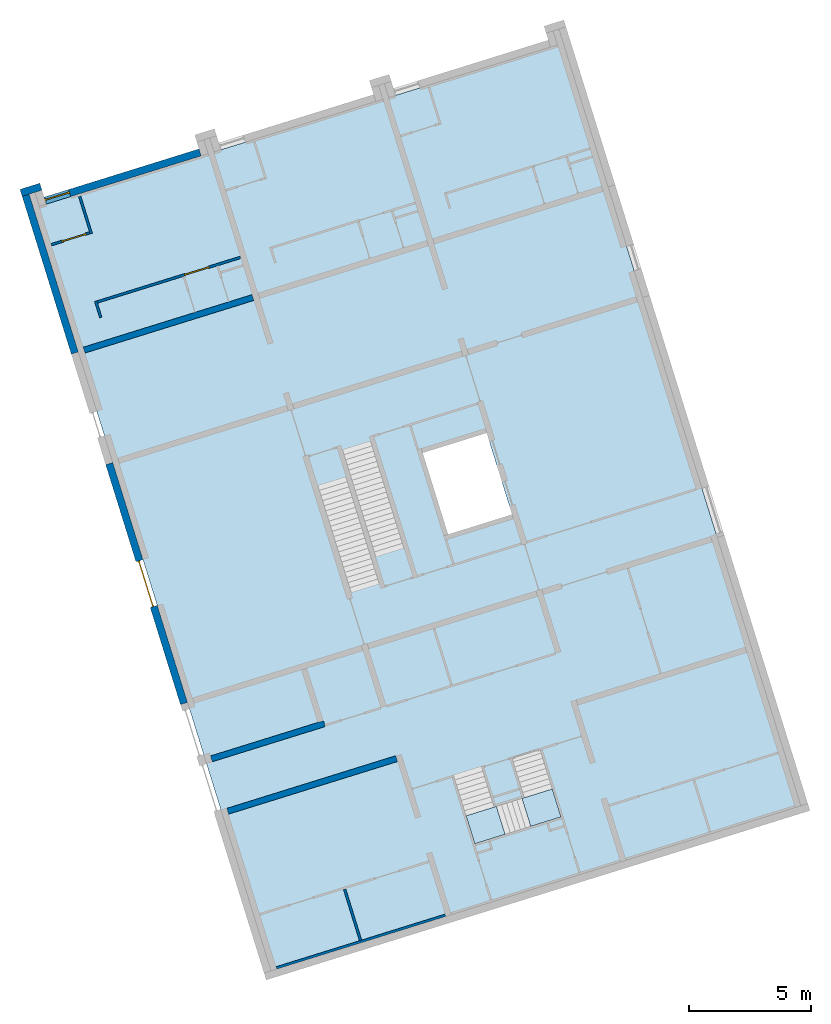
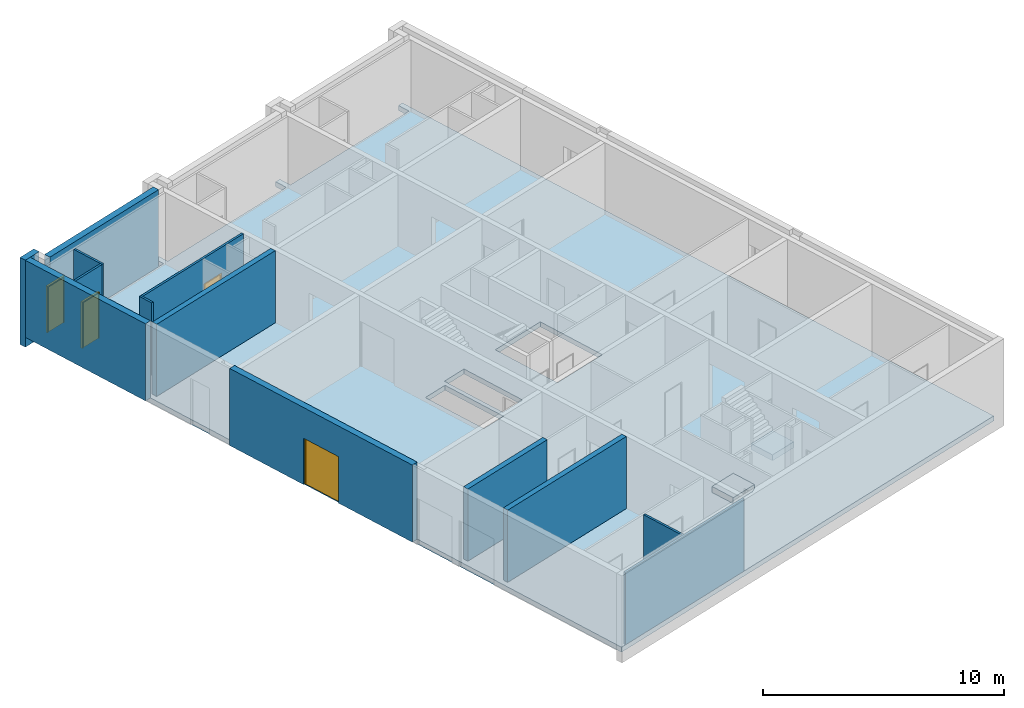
# One storey, part 1 of 10: 13 walls, 4 doors, 3 slabs, 9 openings, 1 element without a shape of its own.
"""IFC4 building model written with IfcOpenShell, lengths in metres."""

from ifc_helpers import new_model, entity, si_unit, converted_unit, direction, frame, origin, place, context, subcontext, project, spatial, indexed_curve, outline, extrude, polygons, source, transform, mapped, material, constituent, constituent_set, type_object, type_shapes, element, fill, aggregate, save


model = new_model("IFC4")

# Units and contexts
model_context = context("Model", 3, precision=1e-05, world=origin(), true_north=direction((6.12323399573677e-17, 1.0)))
body_context = subcontext(model_context, "Body", "Model", "MODEL_VIEW")
ifc_project = project(units=[si_unit("LENGTHUNIT", "METRE"), si_unit("AREAUNIT", "SQUARE_METRE"), converted_unit("PLANEANGLEUNIT", "DEGREE", entity("IfcPlaneAngleMeasure", 0.0174532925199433), si_unit("PLANEANGLEUNIT", "RADIAN"), dimensions=[0, 0, 0, 0, 0, 0, 0]), si_unit("VOLUMEUNIT", "CUBIC_METRE")], contexts=[model_context])

# Site, building, storey
site_placement = place(None, frame((13.1347999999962, 11.9886000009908, 0.0), z_axis=(0.0, 0.0, 1.0), x_axis=(0.954770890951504, 0.297342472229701, 0.0)))
site = spatial("IfcSite", under=ifc_project, at=site_placement, Name="Schiehaven", CompositionType="ELEMENT")
building_placement = place(site_placement, origin())
building = spatial("IfcBuilding", under=site, at=building_placement, Name="VORM huis", CompositionType="ELEMENT")
storey_placement = place(building_placement, origin())
storey = spatial("IfcBuildingStorey", under=building, at=storey_placement, Name="00 begane grond", CompositionType="ELEMENT", Elevation=0.0)

# Slab, openings
ifc_material_1 = material(Name="beton_gewapend_ihw", Category="Miscellaneous")
slab_type_1 = type_object("IfcSlabType", Name="Floor:28_FL_skelet_vloer 250mm", PredefinedType="FLOOR", material=ifc_material_1)
slab_1_placement = place(storey_placement, origin())
slab_1 = element("IfcSlab", 1, at=slab_1_placement, inside=storey, type_object=slab_type_1, material=ifc_material_1, Name="Constructieve vloer", ObjectType="Vloer", PredefinedType="FLOOR", context=body_context, shape_type="SweptSolid", body=[
    extrude(outline(indexed_curve([(-11.3749999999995, -28.9562499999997), (11.3749999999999, -28.9562499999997), (11.3749999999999, 4.39375000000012), (11.125, 4.39375000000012), (11.125, 3.79375000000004), (3.87500000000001, 3.79375000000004), (3.87500000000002, 4.39374999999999), (3.62499999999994, 4.39374999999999), (3.62499999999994, 3.79374999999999), (-3.62500000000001, 3.79374999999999), (-3.62500000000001, 4.39374999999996), (-3.87500000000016, 4.39374999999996), (-3.87500000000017, 3.79374999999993), (-11.1250000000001, 3.79374999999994), (-11.1250000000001, 4.39374999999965), (-11.3749999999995, 4.39374999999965), (-11.3749999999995, -28.9562499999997)], self_intersect=False), holes=[indexed_curve([(3.62500000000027, -14.0312500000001), (0.875000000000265, -14.0312500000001), (0.875000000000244, -10.5312500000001), (3.62500000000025, -10.5312500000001), (3.62500000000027, -14.0312500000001)], self_intersect=False), indexed_curve([(-1.02499999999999, -13.8212500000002), (-2.22500000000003, -13.8212500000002), (-2.22500000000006, -10.5212500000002), (-1.02500000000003, -10.5212500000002), (-1.02499999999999, -13.8212500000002)], self_intersect=False), indexed_curve([(-3.62500000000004, -10.7412500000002), (-2.42499999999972, -10.7412500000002), (-2.42499999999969, -14.0412500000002), (-3.625, -14.0412500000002), (-3.62500000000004, -10.7412500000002)], self_intersect=False)]), frame((68.7500000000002, 29.3312499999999, -0.25)), (0.0, 0.0, 1.0), 0.25),
])
opening_1_placement = place(slab_1_placement, origin())
element("IfcOpeningElement", 2, at=opening_1_placement, cuts=slab_1, Name="Constructieve vloer", PredefinedType="OPENING", context=body_context, shape_type="SweptSolid", body=[
    extrude(outline(indexed_curve([(-1.75, -1.375), (1.75, -1.375), (1.75, 1.37500000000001), (-1.75, 1.37500000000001), (-1.75, -1.375)], self_intersect=False)), frame((71.0, 17.0499999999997, -0.25), z_axis=(0.0, 0.0, 1.0), x_axis=(0.0, 1.0, 0.0)), (0.0, 0.0, 1.0), 0.25),
])
opening_2_placement = place(slab_1_placement, origin())
element("IfcOpeningElement", 3, at=opening_2_placement, cuts=slab_1, Name="Constructieve vloer", PredefinedType="OPENING", context=body_context, shape_type="SweptSolid", body=[
    extrude(outline(indexed_curve([(-1.65, -0.60000000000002), (1.65, -0.60000000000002), (1.65, 0.60000000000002), (-1.65, 0.60000000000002), (-1.65, -0.60000000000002)], self_intersect=False)), frame((67.1250000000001, 17.1599999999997, -0.25), z_axis=(0.0, 0.0, 1.0), x_axis=(0.0, 1.0, 0.0)), (0.0, 0.0, 1.0), 0.25),
])

# Stair, slabs
stair_type = type_object("IfcStairType", Name="Trap", PredefinedType="DOUBLE_RETURN_STAIR")
stair_placement = place(storey_placement, origin())
stair = element("IfcStair", 4, at=stair_placement, inside=storey, type_object=stair_type, Name="Hoofdtrap", ObjectType="Precast Stair:NLRS_24_STR_reguliere trap-woonfunctie-breedte 1200mm_gen", PredefinedType="DOUBLE_RETURN_STAIR")
ifc_material_2 = material(Name="beton_gewapend_prefab-element", Category="Miscellaneous")
slab_type_2 = type_object("IfcSlabType", Name="Monolithic Landing:NLRS_24_STRL_bordes-beton prefab-300mm_gen_rsf", PredefinedType="LANDING")
slab_2_placement = place(stair_placement, frame((66.9000000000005, 2.86500000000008, 0.0)))
slab_2 = element("IfcSlab", 5, at=slab_2_placement, type_object=slab_type_2, material=ifc_material_2, Name="Hoofdtrap Landing 1", ObjectType="Monolithic Landing:NLRS_24_STRL_bordes-beton prefab-300mm_gen_rsf", PredefinedType="LANDING", context=body_context, shape_type="Tessellation", body=[
    polygons([(1.20000000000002, 1.2, 1.48571428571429), (0.0, 1.2, 1.48571428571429), (0.0, 4.88498130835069e-15, 1.48571428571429), (1.17715474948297, 8.88178419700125e-16, 1.48571428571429), (1.30000000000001, 0.0, 1.48571428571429), (1.30000000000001, 1.2, 1.48571428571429), (0.0, 4.88498130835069e-15, 1.18571428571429), (1.17715474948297, 8.88178419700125e-16, 1.18571428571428), (1.30000000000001, 0.0, 1.28941482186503), (1.30000000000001, 1.2, 1.28941482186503), (1.20000000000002, 1.2, 1.20499923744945), (1.17715474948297, 1.2, 1.18571428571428), (0.0, 1.2, 1.18571428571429)], [[[1, 2, 3, 4, 5, 6]], [[3, 7, 8, 9, 5, 4]], [[1, 6, 10, 11]], [[12, 8, 7, 13]], [[8, 12, 11, 10, 9]], [[2, 1, 11, 12, 13]], [[3, 2, 13, 7]], [[6, 5, 9, 10]]], closed=True),
])
slab_3_placement = place(stair_placement, frame((69.3000000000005, 2.86500000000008, 0.0)))
slab_3 = element("IfcSlab", 6, at=slab_3_placement, type_object=slab_type_2, material=ifc_material_2, Name="Hoofdtrap Landing 2", ObjectType="Monolithic Landing:NLRS_24_STRL_bordes-beton prefab-300mm_gen_rsf", PredefinedType="LANDING", context=body_context, shape_type="Tessellation", body=[
    polygons([(0.0, 1.20000000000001, 2.41428571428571), (0.0, 4.88498130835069e-15, 2.41428571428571), (1.30000000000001, 0.0, 2.41428571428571), (1.30000000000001, 1.07715474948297, 2.41428571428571), (1.30000000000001, 1.2, 2.41428571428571), (0.0999999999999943, 1.2, 2.41428571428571), (1.30000000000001, 0.0, 2.11428571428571), (1.30000000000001, 1.07715474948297, 2.11428571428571), (1.30000000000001, 1.2, 2.21798625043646), (0.0999999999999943, 1.2, 2.21798625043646), (0.0999999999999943, 1.2, 2.11428571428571), (0.0, 1.20000000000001, 2.11428571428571), (0.0999999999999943, 1.07715474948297, 2.11428571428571), (0.0, 4.88498130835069e-15, 2.11428571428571)], [[[1, 2, 3, 4, 5, 6]], [[3, 7, 8, 9, 5, 4]], [[1, 6, 10, 11, 12]], [[11, 13, 8, 7, 14, 12]], [[8, 13, 10, 9]], [[2, 1, 12, 14]], [[3, 2, 14, 7]], [[6, 5, 9, 10]], [[13, 11, 10]]], closed=True),
])
aggregate(stair, [slab_2, slab_3])

# Walls
ifc_material_3 = material(Name="ntb_ntb_ntb", Category="Miscellaneous")
wall_type_1 = type_object("IfcWallType", Name="Basic Wall:21_WA_gevel_binnenspouwwand 100mm_gen", PredefinedType="STANDARD")
wall_1_placement = place(storey_placement, frame((64.8750000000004, 0.424999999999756, 0.0), z_axis=(0.0, 0.0, 1.0), x_axis=(-1.0, 0.0, 0.0)))
element("IfcWall", 7, at=wall_1_placement, inside=storey, type_object=wall_type_1, material=ifc_material_3, Name="Binnenspouwblad", ObjectType="Wand", PredefinedType="NOTDEFINED", context=body_context, shape_type="SweptSolid", body=[
    extrude(outline(indexed_curve([(7.24999999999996, 0.05), (8.31549082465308e-16, 0.05), (-8.31549082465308e-16, -0.05), (7.24999999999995, -0.05), (7.24999999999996, 0.05)], self_intersect=False)), origin(), (0.0, 0.0, 1.0), 3.65),
])
wall_type_2 = type_object("IfcWallType", Name="Basic Wall: 300mm_gen", PredefinedType="STANDARD")
wall_2_placement = place(storey_placement, frame((57.2249999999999, 33.7249999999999, 0.0), z_axis=(0.0, 0.0, 1.0), x_axis=(0.0, -1.0, 0.0)))
element("IfcWall", 8, at=wall_2_placement, inside=storey, type_object=wall_type_2, material=ifc_material_3, Name="Gevelwand", ObjectType="Wand", PredefinedType="NOTDEFINED", context=body_context, shape_type="SweptSolid", body=[
    extrude(outline(indexed_curve([(6.77500000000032, 0.150000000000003), (-6.41119888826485e-15, 0.150000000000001), (-2.25173814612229e-15, -0.150000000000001), (6.77500000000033, -0.149999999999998), (6.77500000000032, 0.150000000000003)], self_intersect=False)), origin(), (0.0, 0.0, 1.0), 3.9),
])

# Wall, openings, door
wall_3_placement = place(storey_placement, frame((57.2250000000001, 22.1999999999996, 0.0), z_axis=(0.0, 0.0, 1.0), x_axis=(0.0, -1.0, 0.0)))
wall_3 = element("IfcWall", 9, at=wall_3_placement, inside=storey, type_object=wall_type_2, material=ifc_material_3, Name="Gevelwand", ObjectType="Wand", PredefinedType="NOTDEFINED", context=body_context, shape_type="Tessellation", body=[
    polygons([(6.13249999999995, -0.15, 2.34999999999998), (6.13249999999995, -0.15, 0.0), (10.2999999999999, -0.150000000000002, 0.0), (10.2999999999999, -0.150000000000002, 3.9), (0.0, -0.149999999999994, 3.9), (0.0, -0.149999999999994, 0.0), (4.16749999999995, -0.149999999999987, 0.0), (4.16749999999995, -0.149999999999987, 2.34999999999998), (10.3, 0.149999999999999, 0.0), (6.13249999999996, 0.150000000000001, 0.0), (6.13249999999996, 0.150000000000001, 2.34999999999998), (4.16749999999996, 0.150000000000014, 2.34999999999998), (4.16749999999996, 0.150000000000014, 0.0), (4.33146851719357e-15, 0.150000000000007, 0.0), (4.33146851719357e-15, 0.150000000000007, 3.9), (10.3, 0.149999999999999, 3.9)], [[[1, 2, 3, 4, 5, 6, 7, 8]], [[9, 10, 11, 12, 13, 14, 15, 16]], [[7, 6, 14, 13]], [[4, 3, 9, 16]], [[5, 4, 16, 15]], [[6, 5, 15, 14]], [[12, 11, 1, 8]], [[11, 10, 2, 1]], [[13, 12, 8, 7]], [[3, 2, 10, 9]]], closed=True),
])
opening_3_placement = place(wall_3_placement, frame((6.13249999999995, 0.150000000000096, 0.0)))
opening_3 = element("IfcOpeningElement", 10, at=opening_3_placement, cuts=wall_3, Name="Vluchtdeur", PredefinedType="OPENING", context=body_context, shape_type="SweptSolid", body=[
    extrude(outline(indexed_curve([(2.34999999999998, 1.965), (0.0, 1.965), (0.0, 0.0), (2.34999999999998, 0.0), (2.34999999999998, 1.965)], self_intersect=False)), frame((0.0, 0.0, 0.0), z_axis=(0.0, -1.0, 0.0), x_axis=(0.0, 0.0, 1.0)), (0.0, 0.0, 1.0), 0.3),
])
opening_4_placement = place(wall_3_placement, frame((22.1999999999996, -57.2250000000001, 0.0), z_axis=(0.0, 0.0, 1.0), x_axis=(0.0, 1.0, 0.0)))
element("IfcOpeningElement", 11, at=opening_4_placement, cuts=wall_3, Name="Vluchtdeur", PredefinedType="OPENING", context=body_context, shape_type="SweptSolid", body=[
    extrude(outline(indexed_curve([(-0.982500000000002, -1.17499999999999), (0.982500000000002, -1.17499999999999), (0.9825, 1.17499999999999), (-0.982500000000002, 1.17499999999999), (-0.982500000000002, -1.17499999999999)], self_intersect=False)), frame((55.8510000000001, 17.0499999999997, 1.17499999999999), z_axis=(1.0, 0.0, 0.0), x_axis=(0.0, -1.0, 0.0)), (0.0, 0.0, 1.0), 3.048),
])
ifc_material_4 = material(Name="PD_a_buitenwandopeningen", Category="Miscellaneous")
ifc_constituent_1 = constituent(ifc_material_4, Name="PD_a_buitenwandopeningen", Category="Miscellaneous")
ifc_material_5 = material(Name="metaal_aluminium_ntb", Category="Miscellaneous")
ifc_constituent_2 = constituent(ifc_material_5, Name="metaal_aluminium_ntb", Category="Miscellaneous")
ifc_constituent_set_1 = constituent_set(constituents=[ifc_constituent_1, ifc_constituent_2])
ifc_constituent_3 = constituent(ifc_material_4, Name="PD_a_buitenwandopeningen", Category="Miscellaneous")
ifc_constituent_4 = constituent(ifc_material_5, Name="Panel", Category="Miscellaneous")
ifc_constituent_set_2 = constituent_set(constituents=[ifc_constituent_3, ifc_constituent_4])
door_type_1 = type_object("IfcDoorType", Name="31_DO_buitendeur dubbel:buitendeur zelfsluitend 30min", OperationType="NOTDEFINED", PredefinedType="DOOR", material=ifc_constituent_set_2)
shared_shape_1 = source(origin(), body_context, "Body", "SweptSolid", [
    extrude(outline(indexed_curve([(-1.16249999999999, -0.982500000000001), (1.18749999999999, -0.982500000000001), (1.18749999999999, 0.982500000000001), (-1.16249999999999, 0.982500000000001), (-1.16249999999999, 0.932499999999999), (1.13749999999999, 0.9325), (1.13749999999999, -0.932499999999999), (-1.16249999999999, -0.932499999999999), (-1.16249999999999, -0.982500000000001)], self_intersect=False)), frame((0.982500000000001, 0.130000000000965, 1.16249999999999), z_axis=(0.0, 1.0, 0.0), x_axis=(0.0, 0.0, 1.0)), (0.0, 0.0, 1.0), 0.1),
    extrude(outline(indexed_curve([(-0.025, -0.466249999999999), (0.025, -0.466249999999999), (0.025, 0.466249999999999), (-0.025, 0.466249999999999), (-0.025, -0.466249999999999)], self_intersect=False)), frame((1.44875, 0.180000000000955, 0.0), z_axis=(0.0, 0.0, 1.0), x_axis=(0.0, 1.0, 0.0)), (0.0, 0.0, 1.0), 2.29999999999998),
    extrude(outline(indexed_curve([(-0.0249999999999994, -0.46625), (0.0250000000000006, -0.46625), (0.0249999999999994, 0.46625), (-0.0250000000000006, 0.466249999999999), (-0.0249999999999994, -0.46625)], self_intersect=False)), frame((0.516250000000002, 0.180000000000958, 0.0), z_axis=(0.0, 0.0, 1.0), x_axis=(0.0, 1.0, 0.0)), (0.0, 0.0, 1.0), 2.29999999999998),
])
type_shapes(door_type_1, [shared_shape_1])
door_1_placement = place(opening_3_placement, frame((0.0, 0.0, 0.0), z_axis=(0.0, 0.0, 1.0), x_axis=(-1.0, 0.0, 0.0)))
door_1 = element("IfcDoor", 12, at=door_1_placement, inside=storey, type_object=door_type_1, material=ifc_constituent_set_1, Name="Vluchtdeur", ObjectType="Deur", OperationType="NOTDEFINED", OverallHeight=2.34999999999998, OverallWidth=1.965, PredefinedType="DOOR", context=body_context, shape_type="MappedRepresentation", body=[
    mapped(shared_shape_1, transform((0.0, 0.0, 0.0), scale=1.0)),
])
fill(opening_3, door_1)

# Wall
wall_4_placement = place(storey_placement, frame((57.9250000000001, 33.8749999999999, -0.5), z_axis=(0.0, 0.0, 1.0), x_axis=(-1.0, 0.0, 0.0)))
element("IfcWall", 13, at=wall_4_placement, inside=storey, type_object=wall_type_2, material=ifc_material_3, Name="Gevelwand", ObjectType="Wand", PredefinedType="NOTDEFINED", context=body_context, shape_type="SweptSolid", body=[
    extrude(outline(indexed_curve([(0.850000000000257, 0.150000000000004), (-6.58211410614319e-16, 0.150000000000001), (6.58211410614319e-16, -0.150000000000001), (0.850000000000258, -0.149999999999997), (0.850000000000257, 0.150000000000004)], self_intersect=False)), origin(), (0.0, 0.0, 1.0), 4.4),
])

# Wall, openings, door
wall_5_placement = place(storey_placement, frame((64.5750000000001, 33.2749999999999, -0.5), z_axis=(0.0, 0.0, 1.0), x_axis=(-1.0, 0.0, 0.0)))
wall_5 = element("IfcWall", 14, at=wall_5_placement, inside=storey, type_object=wall_type_2, material=ifc_material_3, Name="Gevelwand", ObjectType="Wand", PredefinedType="NOTDEFINED", context=body_context, shape_type="Tessellation", body=[
    polygons([(-3.38828290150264e-15, -0.149999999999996, 0.0), (6.64999999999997, -0.149999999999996, 0.0), (6.64999999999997, -0.149999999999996, 0.5), (5.59999999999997, -0.149999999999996, 0.5), (5.59999999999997, -0.149999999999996, 2.84999999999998), (6.64999999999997, -0.149999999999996, 2.84999999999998), (6.64999999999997, -0.149999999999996, 4.4), (-3.38828290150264e-15, -0.149999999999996, 4.4), (6.64999999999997, 0.150000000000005, 0.0), (-4.36865596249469e-15, 0.150000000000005, 0.0), (-4.36865596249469e-15, 0.150000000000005, 4.4), (6.64999999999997, 0.150000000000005, 4.4), (6.64999999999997, 0.150000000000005, 2.84999999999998), (5.59999999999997, 0.150000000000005, 2.84999999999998), (5.59999999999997, 0.150000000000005, 0.5), (6.64999999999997, 0.150000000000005, 0.5)], [[[1, 2, 3, 4, 5, 6, 7, 8]], [[9, 10, 11, 12, 13, 14, 15, 16]], [[2, 1, 10, 9]], [[8, 7, 12, 11]], [[1, 8, 11, 10]], [[2, 9, 16, 3]], [[15, 4, 3, 16]], [[4, 15, 14, 5]], [[5, 14, 13, 6]], [[12, 7, 6, 13]]], closed=True),
])
opening_5_placement = place(wall_5_placement, frame((6.64999999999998, 0.149999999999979, 0.5)))
opening_5 = element("IfcOpeningElement", 15, at=opening_5_placement, cuts=wall_5, Name="Woningtoegangsdeur", PredefinedType="OPENING", context=body_context, shape_type="SweptSolid", body=[
    extrude(outline(indexed_curve([(2.34999999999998, -5.52923834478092e-32), (2.34999999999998, 1.05), (0.0, 1.05), (0.0, -5.52923834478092e-32), (2.34999999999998, -5.52923834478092e-32)], self_intersect=False)), frame((0.0, 0.0, 0.0), z_axis=(0.0, -1.0, 0.0), x_axis=(0.0, 0.0, 1.0)), (0.0, 0.0, 1.0), 0.3),
])
opening_6_placement = place(wall_5_placement, frame((64.5750000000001, 33.2749999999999, 0.5), z_axis=(0.0, 0.0, 1.0), x_axis=(-1.0, 0.0, 0.0)))
element("IfcOpeningElement", 16, at=opening_6_placement, cuts=wall_5, Name="Woningtoegangsdeur", PredefinedType="OPENING", context=body_context, shape_type="SweptSolid", body=[
    extrude(outline(indexed_curve([(-1.17499999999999, -0.525000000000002), (1.17499999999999, -0.525000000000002), (1.17499999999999, 0.525000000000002), (-1.17499999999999, 0.525000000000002), (-1.17499999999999, -0.525000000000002)], self_intersect=False)), frame((58.4500000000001, 34.6489999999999, 1.17499999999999), z_axis=(0.0, -1.0, 0.0), x_axis=(0.0, 0.0, -1.0)), (0.0, 0.0, 1.0), 3.048),
])
ifc_constituent_5 = constituent(ifc_material_4, Name="PD_a_buitenwandopeningen", Category="Miscellaneous")
ifc_constituent_6 = constituent(ifc_material_5, Name="metaal_aluminium_ntb", Category="Miscellaneous")
ifc_constituent_set_3 = constituent_set(constituents=[ifc_constituent_5, ifc_constituent_6])
ifc_constituent_7 = constituent(ifc_material_4, Name="PD_a_buitenwandopeningen", Category="Miscellaneous")
ifc_constituent_8 = constituent(ifc_material_5, Name="Panel", Category="Miscellaneous")
ifc_constituent_set_4 = constituent_set(constituents=[ifc_constituent_7, ifc_constituent_8])
door_type_2 = type_object("IfcDoorType", Name="31_DO_buitendeur enkel:woningtoegangsdeur", OperationType="REVOLVING", PredefinedType="DOOR", material=ifc_constituent_set_4)
shared_shape_2 = source(origin(), body_context, "Body", "SweptSolid", [
    extrude(outline(indexed_curve([(0.475, -1.16249999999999), (0.525000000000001, -1.16249999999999), (0.525000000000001, 1.18749999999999), (-0.525000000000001, 1.18749999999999), (-0.525000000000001, -1.16249999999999), (-0.475, -1.16249999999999), (-0.475, 1.13749999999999), (0.475, 1.13749999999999), (0.475, -1.16249999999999)], self_intersect=False)), frame((0.525000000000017, 0.230000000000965, 1.16249999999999), z_axis=(0.0, -1.0, 0.0), x_axis=(1.0, 0.0, 0.0)), (0.0, 0.0, 1.0), 0.1),
    extrude(outline(indexed_curve([(-0.475, -0.025), (0.475, -0.025), (0.475, 0.025), (-0.475, 0.025), (-0.475, -0.025)], self_intersect=False)), frame((0.525000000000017, 0.180000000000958, 0.0)), (0.0, 0.0, 1.0), 2.29999999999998),
])
type_shapes(door_type_2, [shared_shape_2])
door_2_placement = place(opening_5_placement, frame((0.0, 0.0, 0.0), z_axis=(0.0, 0.0, 1.0), x_axis=(-1.0, 0.0, 0.0)))
door_2 = element("IfcDoor", 17, at=door_2_placement, inside=storey, type_object=door_type_2, material=ifc_constituent_set_3, Name="Woningtoegangsdeur", ObjectType="Deur", OperationType="REVOLVING", OverallHeight=2.34999999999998, OverallWidth=1.05, PredefinedType="DOOR", context=body_context, shape_type="MappedRepresentation", body=[
    mapped(shared_shape_2, transform((0.0, 0.0, 0.0), scale=1.0)),
])
fill(opening_5, door_2)

# Walls
wall_type_3 = type_object("IfcWallType", Name="Basic Wall:22_WA_afbouw_binnenwand 250mm_gen", PredefinedType="STANDARD")
wall_6_placement = place(storey_placement, frame((64.875, 26.9499999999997, 0.0), z_axis=(0.0, 0.0, 1.0), x_axis=(-1.0, 0.0, 0.0)))
element("IfcWall", 18, at=wall_6_placement, inside=storey, type_object=wall_type_3, material=ifc_material_3, Name="Binnenwand", ObjectType="Wand", PredefinedType="NOTDEFINED", context=body_context, shape_type="SweptSolid", body=[
    extrude(outline(indexed_curve([(7.24999999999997, 0.125000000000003), (2.22995564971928e-15, 0.125000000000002), (-2.22995564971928e-15, -0.125000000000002), (7.24999999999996, -0.125000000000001), (7.24999999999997, 0.125000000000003)], self_intersect=False)), origin(), (0.0, 0.0, 1.0), 3.65),
])
wall_7_placement = place(storey_placement, frame((64.8750000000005, 7.15000000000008, 0.0), z_axis=(0.0, 0.0, 1.0), x_axis=(-1.0, 0.0, 0.0)))
element("IfcWall", 19, at=wall_7_placement, inside=storey, type_object=wall_type_3, material=ifc_material_3, Name="Binnenwand", ObjectType="Wand", PredefinedType="NOTDEFINED", context=body_context, shape_type="SweptSolid", body=[
    extrude(outline(indexed_curve([(7.24999999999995, 0.125), (2.64740926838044e-16, 0.125), (-2.64740926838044e-16, -0.125), (7.24999999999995, -0.125), (7.24999999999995, 0.125)], self_intersect=False)), origin(), (0.0, 0.0, 1.0), 3.65),
])
wall_8_placement = place(storey_placement, frame((62.4750000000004, 9.40000000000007, 0.0), z_axis=(0.0, 0.0, 1.0), x_axis=(-1.0, 0.0, 0.0)))
element("IfcWall", 20, at=wall_8_placement, inside=storey, type_object=wall_type_3, material=ifc_material_3, Name="Binnenwand", ObjectType="Wand", PredefinedType="NOTDEFINED", context=body_context, shape_type="SweptSolid", body=[
    extrude(outline(indexed_curve([(4.84999999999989, 0.124999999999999), (2.64740926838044e-16, 0.125), (-2.64740926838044e-16, -0.125), (4.84999999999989, -0.125), (4.84999999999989, 0.124999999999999)], self_intersect=False)), origin(), (0.0, 0.0, 1.0), 3.65),
])

# Wall, openings, door
wall_type_4 = type_object("IfcWallType", Name="Basic Wall:22_WA_afbouw_binnenwand 100mm_gen", PredefinedType="STANDARD")
wall_9_placement = place(storey_placement, frame((58.7250000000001, 28.6749999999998, 0.0)))
wall_9 = element("IfcWall", 21, at=wall_9_placement, inside=storey, type_object=wall_type_4, material=ifc_material_3, Name="Binnenwand", ObjectType="Wand", PredefinedType="NOTDEFINED", context=body_context, shape_type="Tessellation", body=[
    polygons([(3.34607414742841e-15, -0.0500000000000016, 0.0), (3.65000000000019, -0.0499999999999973, 0.0), (3.75000000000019, -0.0500000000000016, 0.0), (3.75000000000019, -0.0500000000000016, 2.34999999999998), (4.80000000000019, -0.0500000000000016, 2.34999999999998), (4.80000000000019, -0.0500000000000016, 0.0), (5.10000000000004, -0.0499999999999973, 0.0), (5.20000000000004, -0.0499999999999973, 0.0), (6.15000000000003, -0.0500000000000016, 0.0), (6.15000000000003, -0.0500000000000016, 3.65), (5.20000000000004, -0.0499999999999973, 3.65), (5.10000000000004, -0.0499999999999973, 3.65), (3.75000000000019, -0.0499999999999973, 3.65), (3.65000000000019, -0.0499999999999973, 3.65), (3.34607414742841e-15, -0.0500000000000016, 3.65), (3.75000000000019, 0.0500000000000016, 2.34999999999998), (3.75000000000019, 0.0500000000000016, 0.0), (3.35776348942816e-15, 0.0500000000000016, 0.0), (3.35776348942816e-15, 0.0500000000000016, 3.65), (6.15000000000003, 0.0500000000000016, 3.65), (6.15000000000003, 0.0500000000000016, 0.0), (4.80000000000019, 0.0500000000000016, 0.0), (4.80000000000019, 0.0500000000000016, 2.34999999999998)], [[[1, 2, 3, 4, 5, 6, 7, 8, 9, 10, 11, 12, 13, 14, 15]], [[16, 17, 18, 19, 20, 21, 22, 23]], [[18, 17, 3, 2, 1]], [[10, 9, 21, 20]], [[15, 14, 13, 12, 11, 10, 20, 19]], [[6, 5, 23, 22]], [[4, 3, 17, 16]], [[5, 4, 16, 23]], [[1, 15, 19, 18]], [[22, 21, 9, 8, 7, 6]]], closed=True),
])
opening_7_placement = place(wall_9_placement, frame((3.75000000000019, -0.0500000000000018, 0.0)))
opening_7 = element("IfcOpeningElement", 22, at=opening_7_placement, cuts=wall_9, Name="Binnendeur", PredefinedType="OPENING", context=body_context, shape_type="SweptSolid", body=[
    extrude(outline(indexed_curve([(2.34999999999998, 1.05), (0.0, 1.05), (0.0, 1.48335986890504e-32), (2.34999999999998, 1.48335986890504e-32), (2.34999999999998, 1.05)], self_intersect=False)), frame((0.0, 0.0, 0.0), z_axis=(0.0, 1.0, 0.0), x_axis=(0.0, 0.0, 1.0)), (0.0, 0.0, 1.0), 0.1),
])
opening_8_placement = place(wall_9_placement, frame((-58.7250000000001, -28.6749999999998, 0.0)))
element("IfcOpeningElement", 23, at=opening_8_placement, cuts=wall_9, Name="Binnendeur", PredefinedType="OPENING", context=body_context, shape_type="SweptSolid", body=[
    extrude(outline(indexed_curve([(-1.17499999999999, -0.525000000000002), (1.17499999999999, -0.525000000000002), (1.17499999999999, 0.525000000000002), (-1.17499999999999, 0.525000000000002), (-1.17499999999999, -0.525000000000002)], self_intersect=False)), frame((63.0, 27.1009999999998, 1.17499999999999), z_axis=(0.0, 1.0, 0.0), x_axis=(0.0, 0.0, -1.0)), (0.0, 0.0, 1.0), 3.048),
])
ifc_material_6 = material(Name="PD_a_binnenwandopeningen", Category="Miscellaneous")
ifc_constituent_9 = constituent(ifc_material_6, Name="PD_a_binnenwandopeningen", Category="Miscellaneous")
ifc_constituent_10 = constituent(ifc_material_5, Name="metaal_aluminium_ntb", Category="Miscellaneous")
ifc_constituent_set_5 = constituent_set(constituents=[ifc_constituent_9, ifc_constituent_10])
ifc_constituent_11 = constituent(ifc_material_6, Name="PD_a_binnenwandopeningen", Category="Miscellaneous")
ifc_constituent_12 = constituent(ifc_material_5, Name="Panel", Category="Miscellaneous")
ifc_constituent_set_6 = constituent_set(constituents=[ifc_constituent_11, ifc_constituent_12])
door_type_3 = type_object("IfcDoorType", Name="32_DO_binnendeur enkel:binnendeur", OperationType="REVOLVING", PredefinedType="DOOR", material=ifc_constituent_set_6)
shared_shape_3 = source(origin(), body_context, "Body", "SweptSolid", [
    extrude(outline(indexed_curve([(-1.16249999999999, -0.525000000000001), (1.18749999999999, -0.525), (1.18749999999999, 0.525), (-1.16249999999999, 0.525), (-1.16249999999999, 0.475), (1.13749999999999, 0.475), (1.13749999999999, -0.475), (-1.16249999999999, -0.475), (-1.16249999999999, -0.525000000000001)], self_intersect=False)), frame((0.525000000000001, 0.0, 1.16249999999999), z_axis=(0.0, 1.0, 0.0), x_axis=(0.0, 0.0, 1.0)), (0.0, 0.0, 1.0), 0.1),
    extrude(outline(indexed_curve([(-0.025, -0.475), (0.025, -0.475), (0.025, 0.475), (-0.025, 0.475), (-0.025, -0.475)], self_intersect=False)), frame((0.525000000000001, 0.0499999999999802, 0.0), z_axis=(0.0, 0.0, 1.0), x_axis=(0.0, 1.0, 0.0)), (0.0, 0.0, 1.0), 2.29999999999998),
])
type_shapes(door_type_3, [shared_shape_3])
door_3_placement = place(opening_7_placement, origin())
door_3 = element("IfcDoor", 24, at=door_3_placement, inside=storey, type_object=door_type_3, material=ifc_constituent_set_5, Name="Binnendeur", ObjectType="Deur", OperationType="REVOLVING", OverallHeight=2.34999999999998, OverallWidth=1.05, PredefinedType="DOOR", context=body_context, shape_type="MappedRepresentation", body=[
    mapped(shared_shape_3, transform((0.0, 0.0, 0.0), scale=1.0)),
])
fill(opening_7, door_3)

# Wall
wall_10_placement = place(storey_placement, frame((58.6750000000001, 28.0249999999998, 0.0), z_axis=(0.0, 0.0, 1.0), x_axis=(0.0, 1.0, 0.0)))
element("IfcWall", 25, at=wall_10_placement, inside=storey, type_object=wall_type_4, material=ifc_material_3, Name="Binnenwand", ObjectType="Wand", PredefinedType="NOTDEFINED", context=body_context, shape_type="SweptSolid", body=[
    extrude(outline(indexed_curve([(0.699999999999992, 0.0499999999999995), (-1.60750271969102e-16, 0.0499999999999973), (1.60750271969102e-16, -0.0499999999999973), (0.699999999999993, -0.049999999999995), (0.699999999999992, 0.0499999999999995)], self_intersect=False)), origin(), (0.0, 0.0, 1.0), 3.65),
])

# Wall, opening, door
wall_11_placement = place(storey_placement, frame((57.6250000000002, 31.4749999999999, 0.0)))
wall_11 = element("IfcWall", 26, at=wall_11_placement, inside=storey, type_object=wall_type_4, material=ifc_material_3, Name="Binnenwand", ObjectType="Wand", PredefinedType="NOTDEFINED", context=body_context, shape_type="Tessellation", body=[
    polygons([(1.49999999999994, -0.0500000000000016, 2.34999999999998), (1.49999999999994, -0.0500000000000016, 0.0), (1.64999999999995, -0.0500000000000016, 0.0), (1.64999999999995, -0.0500000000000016, 3.65), (2.91342596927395e-15, -0.0499999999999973, 3.65), (2.91342596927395e-15, -0.0499999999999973, 0.0), (0.449999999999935, -0.0499999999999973, 0.0), (0.449999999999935, -0.0499999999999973, 2.34999999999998), (1.64999999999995, 0.0500000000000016, 0.0), (1.49999999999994, 0.0500000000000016, 0.0), (1.49999999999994, 0.0500000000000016, 2.34999999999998), (0.449999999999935, 0.0500000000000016, 2.34999999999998), (0.449999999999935, 0.0500000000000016, 0.0), (2.26108845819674e-15, 0.0500000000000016, 0.0), (2.26108845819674e-15, 0.0500000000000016, 3.65), (1.64999999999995, 0.0500000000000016, 3.65)], [[[1, 2, 3, 4, 5, 6, 7, 8]], [[9, 10, 11, 12, 13, 14, 15, 16]], [[7, 6, 14, 13]], [[5, 4, 16, 15]], [[6, 5, 15, 14]], [[13, 12, 8, 7]], [[11, 10, 2, 1]], [[12, 11, 1, 8]], [[4, 3, 9, 16]], [[3, 2, 10, 9]]], closed=True),
])
opening_9_placement = place(wall_11_placement, frame((0.449999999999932, -0.0500000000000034, 0.0)))
opening_9 = element("IfcOpeningElement", 27, at=opening_9_placement, cuts=wall_11, Name="Binnendeur", PredefinedType="OPENING", context=body_context, shape_type="SweptSolid", body=[
    extrude(outline(indexed_curve([(2.34999999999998, -1.18100388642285e-29), (2.34999999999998, 1.05), (0.0, 1.05), (0.0, -1.18100388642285e-29), (2.34999999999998, -1.18100388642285e-29)], self_intersect=False)), frame((0.0, 0.0, 0.0), z_axis=(0.0, 1.0, 0.0), x_axis=(0.0, 0.0, 1.0)), (0.0, 0.0, 1.0), 0.1),
])
ifc_constituent_13 = constituent(ifc_material_6, Name="PD_a_binnenwandopeningen", Category="Miscellaneous")
ifc_constituent_14 = constituent(ifc_material_5, Name="metaal_aluminium_ntb", Category="Miscellaneous")
ifc_constituent_set_7 = constituent_set(constituents=[ifc_constituent_13, ifc_constituent_14])
ifc_constituent_15 = constituent(ifc_material_6, Name="PD_a_binnenwandopeningen", Category="Miscellaneous")
ifc_constituent_16 = constituent(ifc_material_5, Name="Panel", Category="Miscellaneous")
ifc_constituent_set_8 = constituent_set(constituents=[ifc_constituent_15, ifc_constituent_16])
door_type_4 = type_object("IfcDoorType", Name="32_DO_binnendeur enkel:binnendeur", OperationType="REVOLVING", PredefinedType="DOOR", material=ifc_constituent_set_8)
shared_shape_4 = source(origin(), body_context, "Body", "SweptSolid", [
    extrude(outline(indexed_curve([(0.475, -1.16249999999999), (0.525, -1.16249999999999), (0.525, 1.18749999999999), (-0.525, 1.18749999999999), (-0.525, -1.16249999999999), (-0.475, -1.16249999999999), (-0.475, 1.13749999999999), (0.475, 1.13749999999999), (0.475, -1.16249999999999)], self_intersect=False)), frame((0.525000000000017, 0.100000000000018, 1.16249999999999), z_axis=(0.0, -1.0, 0.0), x_axis=(1.0, 0.0, 0.0)), (0.0, 0.0, 1.0), 0.1),
    extrude(outline(indexed_curve([(-0.475, -0.025), (0.475, -0.025), (0.475, 0.025), (-0.475, 0.025), (-0.475, -0.025)], self_intersect=False)), frame((0.525000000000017, 0.0499999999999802, 0.0)), (0.0, 0.0, 1.0), 2.29999999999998),
])
type_shapes(door_type_4, [shared_shape_4])
door_4_placement = place(opening_9_placement, origin())
door_4 = element("IfcDoor", 28, at=door_4_placement, inside=storey, type_object=door_type_4, material=ifc_constituent_set_7, Name="Binnendeur", ObjectType="Deur", OperationType="REVOLVING", OverallHeight=2.34999999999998, OverallWidth=1.05, PredefinedType="DOOR", context=body_context, shape_type="MappedRepresentation", body=[
    mapped(shared_shape_4, transform((0.0, 0.0, 0.0), scale=1.0)),
])
fill(opening_9, door_4)

# Walls
wall_12_placement = place(storey_placement, frame((59.3250000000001, 31.4249999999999, 0.0), z_axis=(0.0, 0.0, 1.0), x_axis=(0.0, 1.0, 0.0)))
element("IfcWall", 29, at=wall_12_placement, inside=storey, type_object=wall_type_4, material=ifc_material_3, Name="Binnenwand", ObjectType="Wand", PredefinedType="NOTDEFINED", context=body_context, shape_type="SweptSolid", body=[
    extrude(outline(indexed_curve([(1.6, 0.049999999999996), (-2.31639072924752e-16, 0.0499999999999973), (2.31639072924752e-16, -0.0499999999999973), (1.6, -0.0499999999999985), (1.6, 0.049999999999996)], self_intersect=False)), origin(), (0.0, 0.0, 1.0), 3.65),
])
wall_13_placement = place(storey_placement, frame((61.2500000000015, 0.474999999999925, 0.0), z_axis=(0.0, 0.0, 1.0), x_axis=(0.0, 1.0, 0.0)))
element("IfcWall", 30, at=wall_13_placement, inside=storey, type_object=wall_type_4, material=ifc_material_3, Name="Binnenwand", ObjectType="Wand", PredefinedType="NOTDEFINED", context=body_context, shape_type="SweptSolid", body=[
    extrude(outline(indexed_curve([(2.20000000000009, 0.0499999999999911), (-6.95041434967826e-18, 0.0499999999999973), (6.95041434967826e-18, -0.0499999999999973), (2.20000000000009, -0.0500000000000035), (2.20000000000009, 0.0499999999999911)], self_intersect=False)), origin(), (0.0, 0.0, 1.0), 3.65),
])

save(model, "model.ifc")
